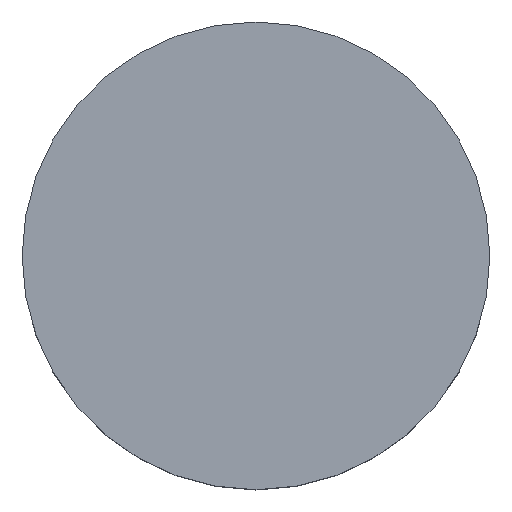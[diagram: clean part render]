
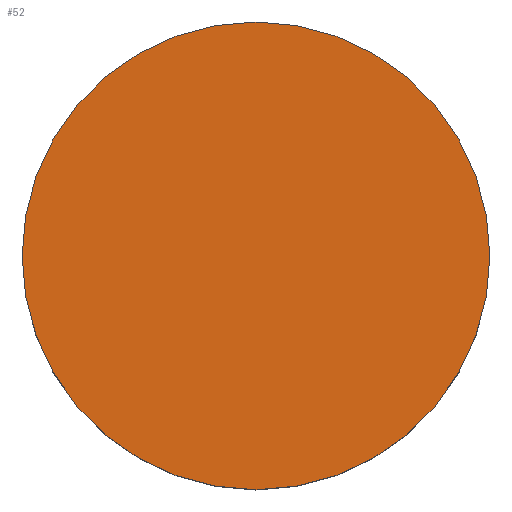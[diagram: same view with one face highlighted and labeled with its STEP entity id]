
A CAD part, top view. The second image highlights one B-rep face of the part: STEP entity #52.
In plain terms, the highlighted planar face has unit normal (0, 0, 1).
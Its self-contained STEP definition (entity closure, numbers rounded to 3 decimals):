
#41 = EDGE_CURVE ( 'NONE', #147, #253, #296, .T. ) ;
#46 = DIRECTION ( 'NONE',  ( 1., 0., 0. ) ) ;
#52 = ADVANCED_FACE ( 'NONE', ( #250 ), #161, .T. ) ;
#64 = AXIS2_PLACEMENT_3D ( 'NONE', #371, #159, #76 ) ;
#76 = DIRECTION ( 'NONE',  ( 1., 0., 0. ) ) ;
#87 = CARTESIAN_POINT ( 'NONE',  ( 14.841, 0., 405.6 ) ) ;
#102 = CARTESIAN_POINT ( 'NONE',  ( -14.841, 0., 405.6 ) ) ;
#141 = DIRECTION ( 'NONE',  ( 0., 0., 1. ) ) ;
#146 = DIRECTION ( 'NONE',  ( 0., 0., 1. ) ) ;
#147 = VERTEX_POINT ( 'NONE', #102 ) ;
#159 = DIRECTION ( 'NONE',  ( 0., 0., 1. ) ) ;
#161 = PLANE ( 'NONE',  #64 ) ;
#168 = CARTESIAN_POINT ( 'NONE',  ( 0., 0., 405.6 ) ) ;
#182 = AXIS2_PLACEMENT_3D ( 'NONE', #234, #146, #289 ) ;
#207 = ORIENTED_EDGE ( 'NONE', *, *, #297, .T. ) ;
#224 = AXIS2_PLACEMENT_3D ( 'NONE', #168, #141, #46 ) ;
#234 = CARTESIAN_POINT ( 'NONE',  ( 0., 0., 405.6 ) ) ;
#250 = FACE_OUTER_BOUND ( 'NONE', #326, .T. ) ;
#253 = VERTEX_POINT ( 'NONE', #87 ) ;
#289 = DIRECTION ( 'NONE',  ( 1., 0., 0. ) ) ;
#296 = CIRCLE ( 'NONE', #224, 14.841 ) ;
#297 = EDGE_CURVE ( 'NONE', #253, #147, #309, .T. ) ;
#309 = CIRCLE ( 'NONE', #182, 14.841 ) ;
#326 = EDGE_LOOP ( 'NONE', ( #356, #207 ) ) ;
#356 = ORIENTED_EDGE ( 'NONE', *, *, #41, .T. ) ;
#371 = CARTESIAN_POINT ( 'NONE',  ( 0., 0., 405.6 ) ) ;
